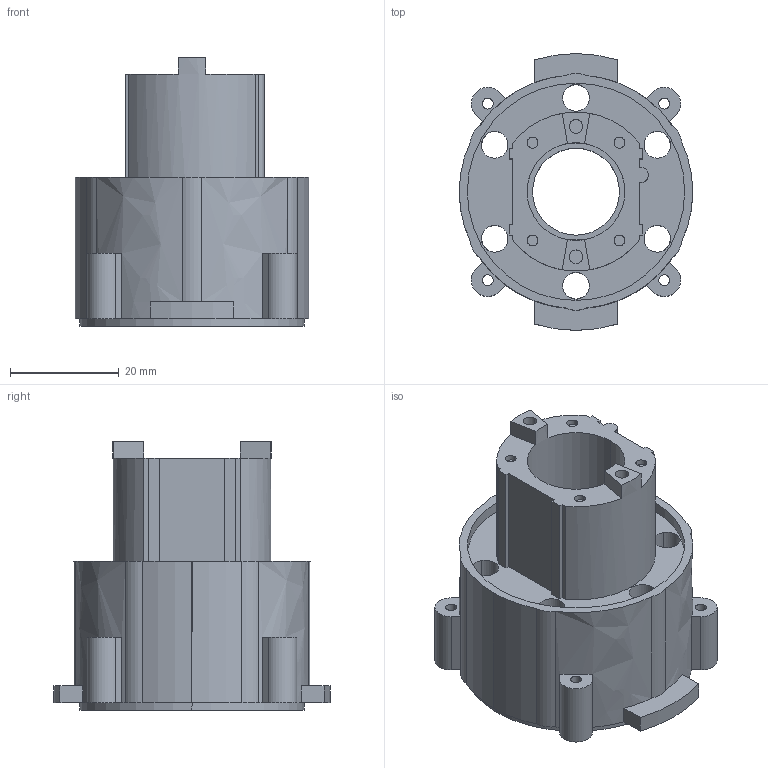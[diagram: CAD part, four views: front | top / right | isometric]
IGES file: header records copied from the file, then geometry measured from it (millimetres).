
Global section: file name: C:\Documents and Settings\Administrator\Desktop\Transfer Temp\transmissionhousing1.igs; native system: AutoDesk Inventor R2.0 ; preprocessor: AutoDesk Inventor Iges Exporter R2.0; author: No Author specified; organization: No Organization specified; date: 20011207.155014; units: millimetre
Bounding box: 43 x 50.94 x 49.4 mm (x, y, z)
Surface area: 14069.2 mm2 (no closed solid volume)
Topology: 0 solids, 0 shells, 133 faces, 764 edges, 764 vertices
Faces by surface type: bspline 94, revolution 39
